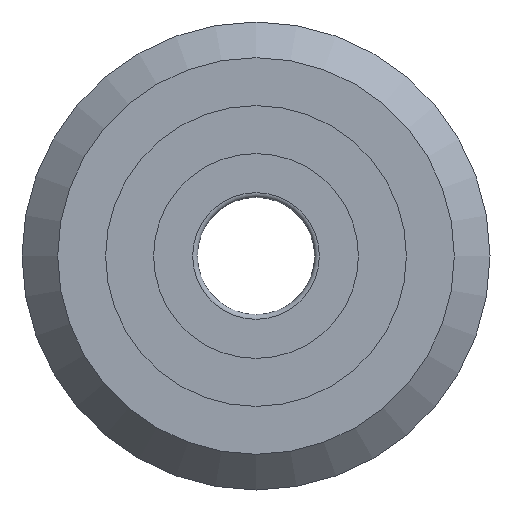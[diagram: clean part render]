
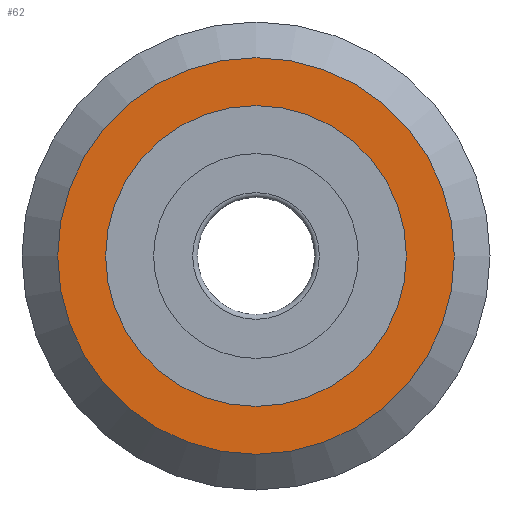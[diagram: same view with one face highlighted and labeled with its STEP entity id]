
A CAD part, left-side view. The second image highlights one B-rep face of the part: STEP entity #62.
In plain terms, the highlighted planar face has unit normal (-1, 0, 0).
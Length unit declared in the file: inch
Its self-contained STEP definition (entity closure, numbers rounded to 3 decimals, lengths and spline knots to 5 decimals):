
#62 = ADVANCED_FACE( '', ( #147, #148 ), #149, .T. );
#147 = FACE_BOUND( '', #274, .T. );
#148 = FACE_OUTER_BOUND( '', #275, .T. );
#149 = PLANE( '', #276 );
#274 = EDGE_LOOP( '', ( #403 ) );
#275 = EDGE_LOOP( '', ( #404 ) );
#276 = AXIS2_PLACEMENT_3D( '', #405, #406, #407 );
#403 = ORIENTED_EDGE( '', *, *, #571, .T. );
#404 = ORIENTED_EDGE( '', *, *, #559, .F. );
#405 = CARTESIAN_POINT( '', ( -0.375, 1., 0. ) );
#406 = DIRECTION( '', ( -1., 0., 0. ) );
#407 = DIRECTION( '', ( 0., 0., 1. ) );
#559 = EDGE_CURVE( '', #619, #619, #620, .T. );
#571 = EDGE_CURVE( '', #639, #639, #640, .T. );
#619 = VERTEX_POINT( '', #709 );
#620 = CIRCLE( '', #710, 1. );
#639 = VERTEX_POINT( '', #729 );
#640 = CIRCLE( '', #730, 0.75825 );
#709 = CARTESIAN_POINT( '', ( -0.375, 0., -1. ) );
#710 = AXIS2_PLACEMENT_3D( '', #798, #799, #800 );
#729 = CARTESIAN_POINT( '', ( -0.375, 0., -0.75825 ) );
#730 = AXIS2_PLACEMENT_3D( '', #822, #823, #824 );
#798 = CARTESIAN_POINT( '', ( -0.375, 0., 0. ) );
#799 = DIRECTION( '', ( 1., 0., 0. ) );
#800 = DIRECTION( '', ( 0., 0., -1. ) );
#822 = CARTESIAN_POINT( '', ( -0.375, 0., 0. ) );
#823 = DIRECTION( '', ( 1., 0., 0. ) );
#824 = DIRECTION( '', ( 0., 0., -1. ) );
